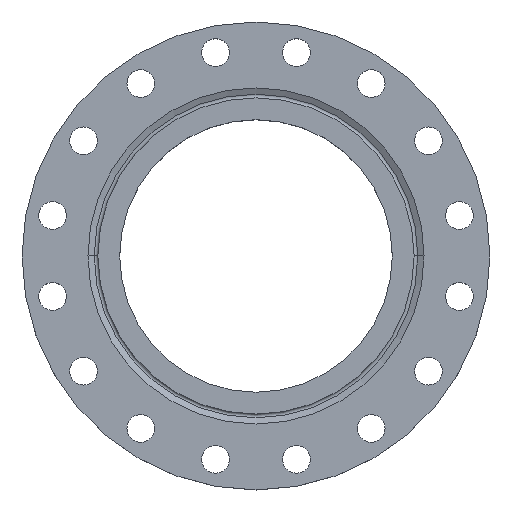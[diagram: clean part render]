
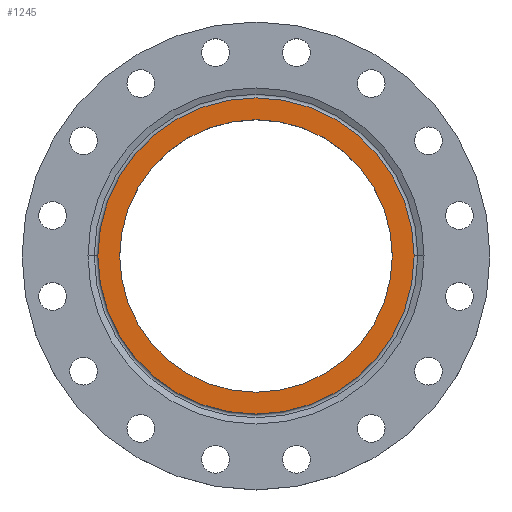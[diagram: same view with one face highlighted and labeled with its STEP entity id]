
A CAD part, top view. The second image highlights one B-rep face of the part: STEP entity #1245.
In plain terms, the highlighted planar face has unit normal (0, 0, 1).
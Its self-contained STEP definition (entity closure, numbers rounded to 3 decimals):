
#99 = CARTESIAN_POINT ( 'NONE',  ( -192.2, 0., 0. ) ) ;
#106 = CIRCLE ( 'NONE', #1189, 223. ) ;
#140 = CIRCLE ( 'NONE', #923, 192.2 ) ;
#245 = AXIS2_PLACEMENT_3D ( 'NONE', #1788, #496, #1285 ) ;
#255 = DIRECTION ( 'NONE',  ( 1., 0., 0. ) ) ;
#256 = DIRECTION ( 'NONE',  ( 0., 0., 1. ) ) ;
#258 = CARTESIAN_POINT ( 'NONE',  ( 0., 0., 0. ) ) ;
#261 = PLANE ( 'NONE',  #1148 ) ;
#262 = FACE_OUTER_BOUND ( 'NONE', #1479, .T. ) ;
#263 = FACE_BOUND ( 'NONE', #1533, .T. ) ;
#342 = DIRECTION ( 'NONE',  ( -1., 0., 0. ) ) ;
#343 = DIRECTION ( 'NONE',  ( 0., 0., -1. ) ) ;
#345 = CARTESIAN_POINT ( 'NONE',  ( 0., 0., 0. ) ) ;
#458 = EDGE_CURVE ( 'NONE', #1527, #962, #140, .T. ) ;
#496 = DIRECTION ( 'NONE',  ( 0., 0., -1. ) ) ;
#503 = CARTESIAN_POINT ( 'NONE',  ( 192.2, 0., 0. ) ) ;
#546 = CARTESIAN_POINT ( 'NONE',  ( 223., 0., 0. ) ) ;
#591 = CARTESIAN_POINT ( 'NONE',  ( -223., 0., 0. ) ) ;
#679 = DIRECTION ( 'NONE',  ( -1., 0., 0. ) ) ;
#796 = DIRECTION ( 'NONE',  ( -1., 0., 0. ) ) ;
#797 = DIRECTION ( 'NONE',  ( 0., 0., -1. ) ) ;
#800 = CARTESIAN_POINT ( 'NONE',  ( 0., 0., 0. ) ) ;
#834 = VERTEX_POINT ( 'NONE', #591 ) ;
#889 = VERTEX_POINT ( 'NONE', #546 ) ;
#923 = AXIS2_PLACEMENT_3D ( 'NONE', #800, #797, #796 ) ;
#947 = AXIS2_PLACEMENT_3D ( 'NONE', #1613, #1812, #679 ) ;
#962 = VERTEX_POINT ( 'NONE', #503 ) ;
#1003 = ORIENTED_EDGE ( 'NONE', *, *, #458, .T. ) ;
#1004 = ORIENTED_EDGE ( 'NONE', *, *, #1717, .T. ) ;
#1005 = ORIENTED_EDGE ( 'NONE', *, *, #1140, .F. ) ;
#1007 = ORIENTED_EDGE ( 'NONE', *, *, #1698, .F. ) ;
#1067 = CIRCLE ( 'NONE', #947, 192.2 ) ;
#1140 = EDGE_CURVE ( 'NONE', #834, #889, #106, .T. ) ;
#1148 = AXIS2_PLACEMENT_3D ( 'NONE', #258, #256, #255 ) ;
#1189 = AXIS2_PLACEMENT_3D ( 'NONE', #345, #343, #342 ) ;
#1239 = CIRCLE ( 'NONE', #245, 223. ) ;
#1245 = ADVANCED_FACE ( 'NONE', ( #263, #262 ), #261, .T. ) ;
#1285 = DIRECTION ( 'NONE',  ( -1., 0., 0. ) ) ;
#1479 = EDGE_LOOP ( 'NONE', ( #1005, #1007 ) ) ;
#1527 = VERTEX_POINT ( 'NONE', #99 ) ;
#1533 = EDGE_LOOP ( 'NONE', ( #1003, #1004 ) ) ;
#1613 = CARTESIAN_POINT ( 'NONE',  ( 0., 0., 0. ) ) ;
#1698 = EDGE_CURVE ( 'NONE', #889, #834, #1239, .T. ) ;
#1717 = EDGE_CURVE ( 'NONE', #962, #1527, #1067, .T. ) ;
#1788 = CARTESIAN_POINT ( 'NONE',  ( 0., 0., 0. ) ) ;
#1812 = DIRECTION ( 'NONE',  ( 0., 0., -1. ) ) ;
